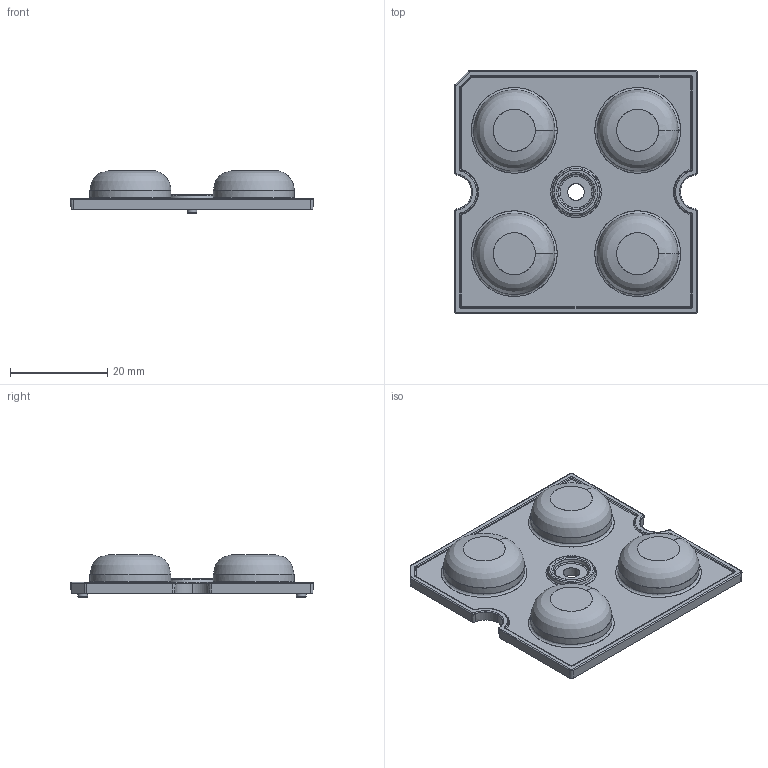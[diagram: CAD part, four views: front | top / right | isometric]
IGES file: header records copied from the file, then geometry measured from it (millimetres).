
Start section: C
Global section: file name: 023YW0AY04.igs; native system: By Siemens PLM Incorporated; preprocessor: XPlus GENERIC/IGES 23.0.61; author: Author; organization: Title; date: 20221118.074008; units: millimetre
Bounding box: 49.98 x 49.98 x 8.8 mm (x, y, z)
Surface area: 6492.8 mm2 (no closed solid volume)
Topology: 0 solids, 0 shells, 303 faces, 1792 edges, 1792 vertices
Faces by surface type: bspline 303
